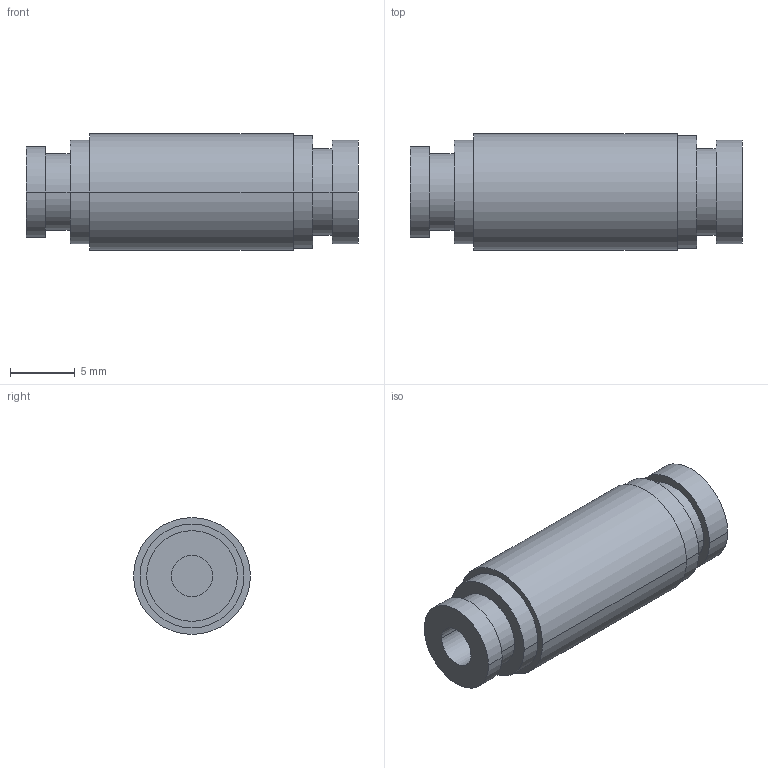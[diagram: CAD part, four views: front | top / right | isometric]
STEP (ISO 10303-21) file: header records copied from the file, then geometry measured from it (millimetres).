
FILE_DESCRIPTION( ( '' ), '1' );
FILE_NAME( 'G:/SMC狟婥/KQ2H23-04A.stp', '2023-03-07T02:51:47', ( '' ), ( '' ), ' ', ' ', ' ' );
FILE_SCHEMA( ( 'CONFIG_CONTROL_DESIGN' ) );
Length unit declared in the file: millimetre
Products named in the file (1): 1
Bounding box: 25.6 x 9 x 9 mm (x, y, z)
Volume: 1171.6 mm3; surface area: 1131.2 mm2
Topology: 1 solids, 1 shells, 28 faces, 54 edges, 36 vertices
Faces by surface type: cylinder 18, plane 10
Entity records: 778 total; most frequent: DIRECTION 148, CARTESIAN_POINT 119, ORIENTED_EDGE 108, AXIS2_PLACEMENT_3D 65, EDGE_CURVE 54, EDGE_LOOP 36, VERTEX_POINT 36, CIRCLE 36
